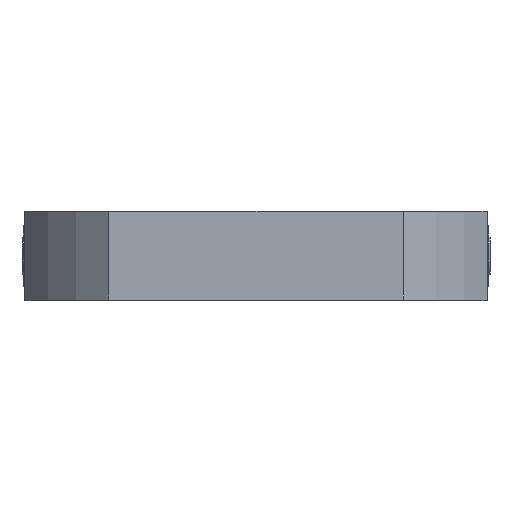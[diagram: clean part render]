
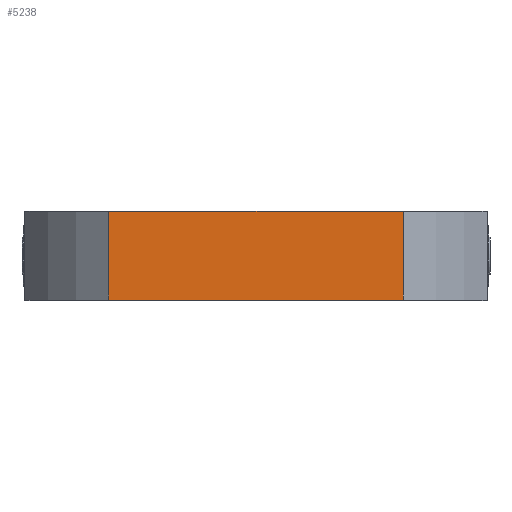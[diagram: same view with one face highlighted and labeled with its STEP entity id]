
A CAD part, top view. The second image highlights one B-rep face of the part: STEP entity #5238.
In plain terms, the highlighted planar face has unit normal (0, 0, 1).
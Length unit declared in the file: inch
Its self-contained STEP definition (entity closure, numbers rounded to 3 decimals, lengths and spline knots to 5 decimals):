
#343 = ORIENTED_EDGE ( 'NONE', *, *, #8509, .F. ) ;
#415 = AXIS2_PLACEMENT_3D ( 'NONE', #6155, #11405, #10702 ) ;
#643 = EDGE_CURVE ( 'NONE', #5329, #4968, #6044, .T. ) ;
#703 = VECTOR ( 'NONE', #7369, 39.37008 ) ;
#1095 = VERTEX_POINT ( 'NONE', #2800 ) ;
#1301 = VERTEX_POINT ( 'NONE', #8397 ) ;
#1331 = VECTOR ( 'NONE', #3225, 39.37008 ) ;
#1664 = PLANE ( 'NONE',  #415 ) ;
#2127 = EDGE_LOOP ( 'NONE', ( #4316, #6644, #2976, #343 ) ) ;
#2168 = VECTOR ( 'NONE', #7183, 39.37008 ) ;
#2640 = EDGE_CURVE ( 'NONE', #5329, #1095, #6419, .T. ) ;
#2800 = CARTESIAN_POINT ( 'NONE',  ( 1.95864, 0., 2.95276 ) ) ;
#2954 = EDGE_CURVE ( 'NONE', #1301, #1095, #8669, .T. ) ;
#2976 = ORIENTED_EDGE ( 'NONE', *, *, #2954, .F. ) ;
#3225 = DIRECTION ( 'NONE',  ( 0., 1., 0. ) ) ;
#3806 = CARTESIAN_POINT ( 'NONE',  ( -3.07087, 0., 2.95276 ) ) ;
#4316 = ORIENTED_EDGE ( 'NONE', *, *, #643, .F. ) ;
#4968 = VERTEX_POINT ( 'NONE', #5071 ) ;
#5071 = CARTESIAN_POINT ( 'NONE',  ( -1.95864, 1.1811, 2.95276 ) ) ;
#5238 = ADVANCED_FACE ( 'NONE', ( #8936 ), #1664, .F. ) ;
#5329 = VERTEX_POINT ( 'NONE', #7327 ) ;
#5375 = CARTESIAN_POINT ( 'NONE',  ( 1.95864, 0., 2.95276 ) ) ;
#5963 = LINE ( 'NONE', #11327, #7710 ) ;
#6044 = LINE ( 'NONE', #8474, #1331 ) ;
#6155 = CARTESIAN_POINT ( 'NONE',  ( -3.07087, 1.1811, 2.95276 ) ) ;
#6419 = LINE ( 'NONE', #3806, #703 ) ;
#6644 = ORIENTED_EDGE ( 'NONE', *, *, #2640, .T. ) ;
#7183 = DIRECTION ( 'NONE',  ( 0., -1., 0. ) ) ;
#7327 = CARTESIAN_POINT ( 'NONE',  ( -1.95864, 0., 2.95276 ) ) ;
#7369 = DIRECTION ( 'NONE',  ( 1., 0., 0. ) ) ;
#7710 = VECTOR ( 'NONE', #9577, 39.37008 ) ;
#8397 = CARTESIAN_POINT ( 'NONE',  ( 1.95864, 1.1811, 2.95276 ) ) ;
#8474 = CARTESIAN_POINT ( 'NONE',  ( -1.95864, 0., 2.95276 ) ) ;
#8509 = EDGE_CURVE ( 'NONE', #4968, #1301, #5963, .T. ) ;
#8669 = LINE ( 'NONE', #5375, #2168 ) ;
#8936 = FACE_OUTER_BOUND ( 'NONE', #2127, .T. ) ;
#9577 = DIRECTION ( 'NONE',  ( 1., 0., 0. ) ) ;
#10702 = DIRECTION ( 'NONE',  ( -1., 0., 0. ) ) ;
#11327 = CARTESIAN_POINT ( 'NONE',  ( -3.07087, 1.1811, 2.95276 ) ) ;
#11405 = DIRECTION ( 'NONE',  ( 0., 0., -1. ) ) ;
